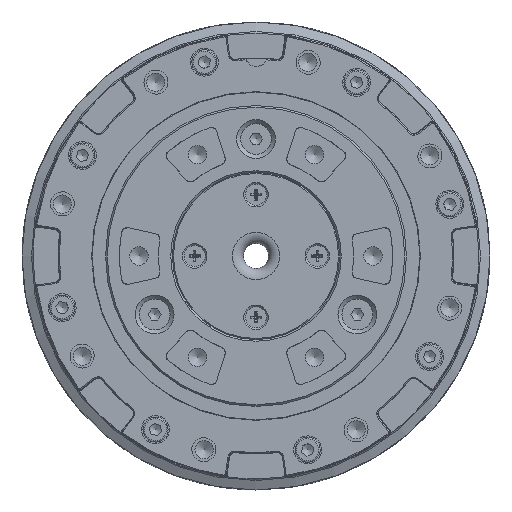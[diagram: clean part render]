
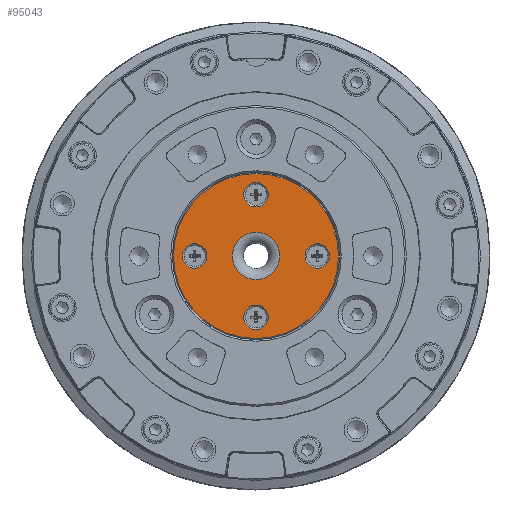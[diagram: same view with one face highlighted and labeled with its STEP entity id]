
A CAD part, front view. The second image highlights one B-rep face of the part: STEP entity #95043.
In plain terms, the highlighted planar face has unit normal (0, -1, 0).
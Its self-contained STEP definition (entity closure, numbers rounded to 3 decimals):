
#94959=CARTESIAN_POINT('',(-4.25,-3.8,0.));
#94960=VERTEX_POINT('',#94959);
#94970=CARTESIAN_POINT('',(0.,-3.8,0.));
#94971=DIRECTION('',(-1.,0.,0.));
#94972=DIRECTION('',(0.,-1.,0.));
#94973=AXIS2_PLACEMENT_3D('',#94970,#94972,#94971);
#94974=CIRCLE('',#94973,4.25);
#94975=EDGE_CURVE('',#94960,#94960,#94974,.T.);
#94980=CARTESIAN_POINT('',(0.,-3.8,0.));
#94981=DIRECTION('',(-1.,0.,0.));
#94982=DIRECTION('',(0.,-1.,0.));
#94983=AXIS2_PLACEMENT_3D('',#94980,#94982,#94981);
#94984=PLANE('',#94983);
#94985=CARTESIAN_POINT('',(-14.8,-3.8,0.));
#94986=VERTEX_POINT('',#94985);
#94987=CARTESIAN_POINT('',(0.,-3.8,0.));
#94988=DIRECTION('',(-1.,0.,0.));
#94989=DIRECTION('',(0.,-1.,0.));
#94990=AXIS2_PLACEMENT_3D('',#94987,#94989,#94988);
#94991=CIRCLE('',#94990,14.8);
#94992=EDGE_CURVE('',#94986,#94986,#94991,.T.);
#94993=ORIENTED_EDGE('',*,*,#94992,.T.);
#94994=EDGE_LOOP('',(#94993));
#94995=FACE_OUTER_BOUND('',#94994,.T.);
#94996=ORIENTED_EDGE('',*,*,#94975,.F.);
#94997=EDGE_LOOP('',(#94996));
#94998=FACE_BOUND('',#94997,.T.);
#94999=CARTESIAN_POINT('',(11.,-3.8,2.2));
#95000=VERTEX_POINT('',#94999);
#95001=CARTESIAN_POINT('',(11.,-3.8,0.));
#95002=DIRECTION('',(0.,0.,1.));
#95003=DIRECTION('',(0.,1.,0.));
#95004=AXIS2_PLACEMENT_3D('',#95001,#95003,#95002);
#95005=CIRCLE('',#95004,2.2);
#95006=EDGE_CURVE('',#95000,#95000,#95005,.T.);
#95007=ORIENTED_EDGE('',*,*,#95006,.T.);
#95008=EDGE_LOOP('',(#95007));
#95009=FACE_BOUND('',#95008,.T.);
#95010=CARTESIAN_POINT('',(-11.,-3.8,2.2));
#95011=VERTEX_POINT('',#95010);
#95012=CARTESIAN_POINT('',(-11.,-3.8,0.));
#95013=DIRECTION('',(0.,0.,1.));
#95014=DIRECTION('',(0.,1.,0.));
#95015=AXIS2_PLACEMENT_3D('',#95012,#95014,#95013);
#95016=CIRCLE('',#95015,2.2);
#95017=EDGE_CURVE('',#95011,#95011,#95016,.T.);
#95018=ORIENTED_EDGE('',*,*,#95017,.T.);
#95019=EDGE_LOOP('',(#95018));
#95020=FACE_BOUND('',#95019,.T.);
#95021=CARTESIAN_POINT('',(0.,-3.8,-8.8));
#95022=VERTEX_POINT('',#95021);
#95023=CARTESIAN_POINT('',(0.,-3.8,-11.));
#95024=DIRECTION('',(0.,0.,1.));
#95025=DIRECTION('',(0.,1.,0.));
#95026=AXIS2_PLACEMENT_3D('',#95023,#95025,#95024);
#95027=CIRCLE('',#95026,2.2);
#95028=EDGE_CURVE('',#95022,#95022,#95027,.T.);
#95029=ORIENTED_EDGE('',*,*,#95028,.T.);
#95030=EDGE_LOOP('',(#95029));
#95031=FACE_BOUND('',#95030,.T.);
#95032=CARTESIAN_POINT('',(0.,-3.8,13.2));
#95033=VERTEX_POINT('',#95032);
#95034=CARTESIAN_POINT('',(0.,-3.8,11.));
#95035=DIRECTION('',(0.,0.,1.));
#95036=DIRECTION('',(0.,1.,0.));
#95037=AXIS2_PLACEMENT_3D('',#95034,#95036,#95035);
#95038=CIRCLE('',#95037,2.2);
#95039=EDGE_CURVE('',#95033,#95033,#95038,.T.);
#95040=ORIENTED_EDGE('',*,*,#95039,.T.);
#95041=EDGE_LOOP('',(#95040));
#95042=FACE_BOUND('',#95041,.T.);
#95043=ADVANCED_FACE('',(#94995,#94998,#95009,#95020,#95031,#95042),#94984,.T.);
